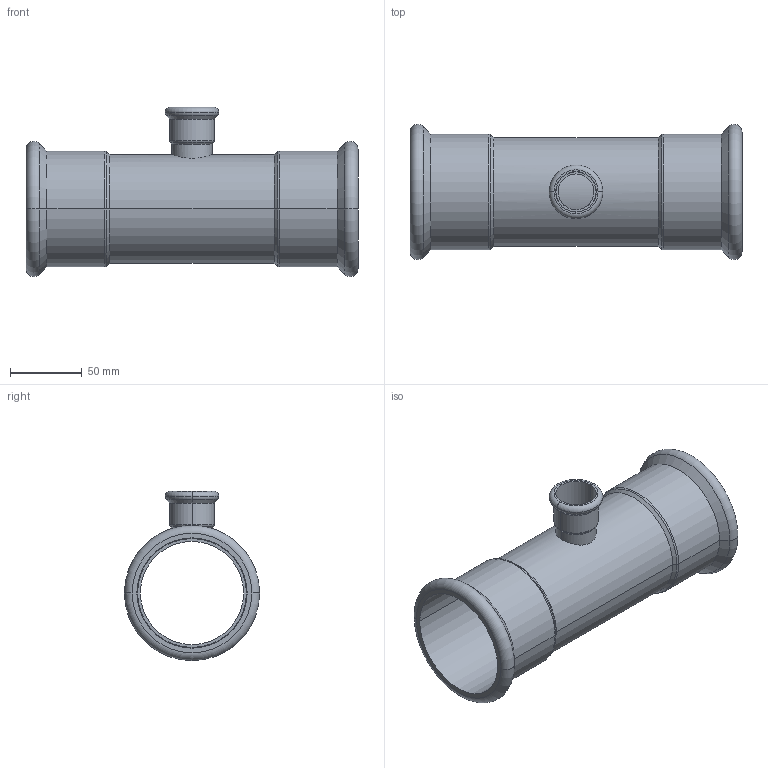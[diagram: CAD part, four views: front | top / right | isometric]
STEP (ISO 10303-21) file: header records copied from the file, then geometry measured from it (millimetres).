
FILE_DESCRIPTION(('CoCreate Modeling STEP Export'),'2;1');
FILE_NAME('C1415 76.1x28x76.1.stp','2014-11-12T10:48:23',(''),(''),'CoCreate Modeling STEP processor for AP214 (Solid Model)','CoCreate Modeling 17.00A 17-Jun-2010 (C) Parametric Technology GmbH','');
FILE_SCHEMA(('AUTOMOTIVE_DESIGN { 1 0 10303 214 1 1 1 1 }'));
Length unit declared in the file: millimetre
Products named in the file (2): C1415_76x28x76
Assembly tree (1 placements, depth 2):
  C1415_76x28x76
    C1415_76x28x76
Bounding box: 232 x 94.48 x 118.24 mm (x, y, z)
Volume: 156223 mm3; surface area: 126032.3 mm2
Topology: 1 solids, 1 shells, 65 faces, 133 edges, 79 vertices
Faces by surface type: cylinder 29, torus 14, cone 12, plane 10
Entity records: 2581 total; most frequent: CARTESIAN_POINT 1363, ORIENTED_EDGE 266, DIRECTION 216, EDGE_CURVE 133, AXIS2_PLACEMENT_3D 88, VERTEX_POINT 79, EDGE_LOOP 76, FACE_OUTER_BOUND 65
